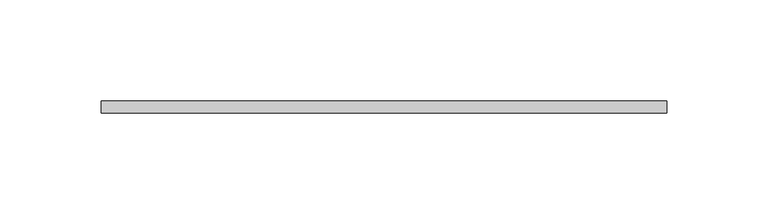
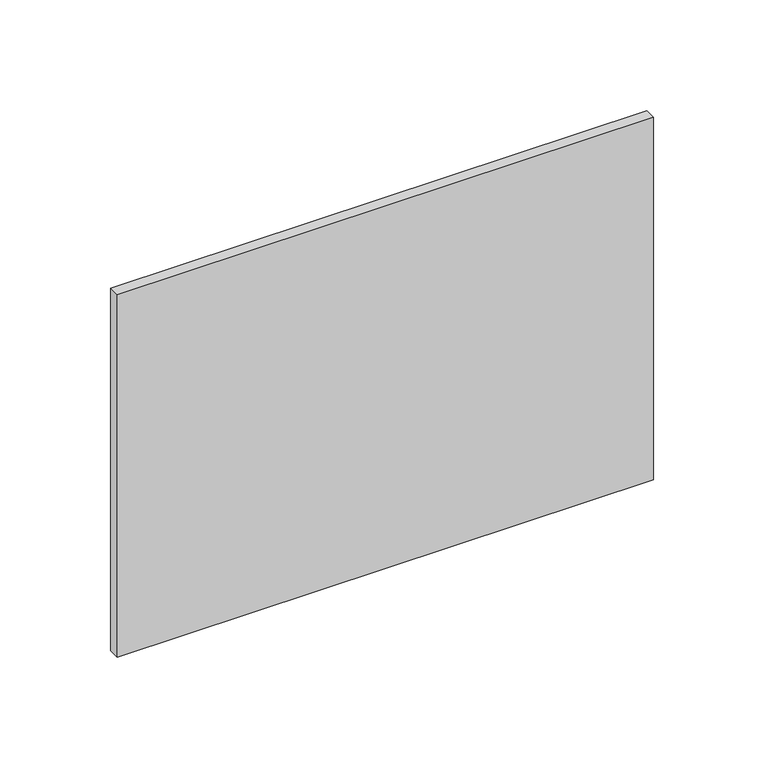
"""IFC4 building model written with IfcOpenShell, lengths in millimetres: proxy geometry, ЛМ_Лист_Прокатный_ГОСТ_19903-2015_(ОбМодель_Общ) : Лист."""

from ifc_helpers import new_model, si_unit, frame, origin, place, context, project, spatial, polyline, outline, extrude, source, transform, mapped, element, save


def generic_models_f3fc682a(model_context):
    return source(origin(), model_context, "Body", "SweptSolid", [
        extrude(outline(polyline([(140.0, -6.0), (-140.0, -6.0), (-140.0, 0.0), (140.0, 0.0), (140.0, -6.0)])), frame((0.0, 0.0, -100.0), z_axis=(0.0, 0.0, 1.0), x_axis=(1.0, 0.0, 0.0)), (0.0, 0.0, 1.0), 200.0),
    ])


if __name__ == "__main__":
    model = new_model("IFC4")
    model_context = context("Model", 3, world=origin())
    ifc_project = project(units=[si_unit("LENGTHUNIT", "METRE", prefix="MILLI")], contexts=[model_context])
    site = spatial("IfcSite", under=ifc_project)
    building = spatial("IfcBuilding", under=site)
    placement = place(None, origin())
    generic_models_shape = generic_models_f3fc682a(model_context)
    element("IfcBuildingElementProxy", 1, Name="ЛМ_Лист_Прокатный_ГОСТ_19903-2015_(ОбМодель_Общ) : Лист", ObjectType="ЛМ_Лист_Прокатный_ГОСТ_19903-2015_(ОбМодель_Общ) : Лист", at=placement, inside=building, context=model_context, shape_type="MappedRepresentation", body=[
        mapped(generic_models_shape, transform((0.0, 0.0, 0.0), x_axis=(1.0, 0.0, 0.0), y_axis=(0.0, 1.0, 0.0), z_axis=(0.0, 0.0, 1.0))),
    ])
    save(model, "model.ifc")
